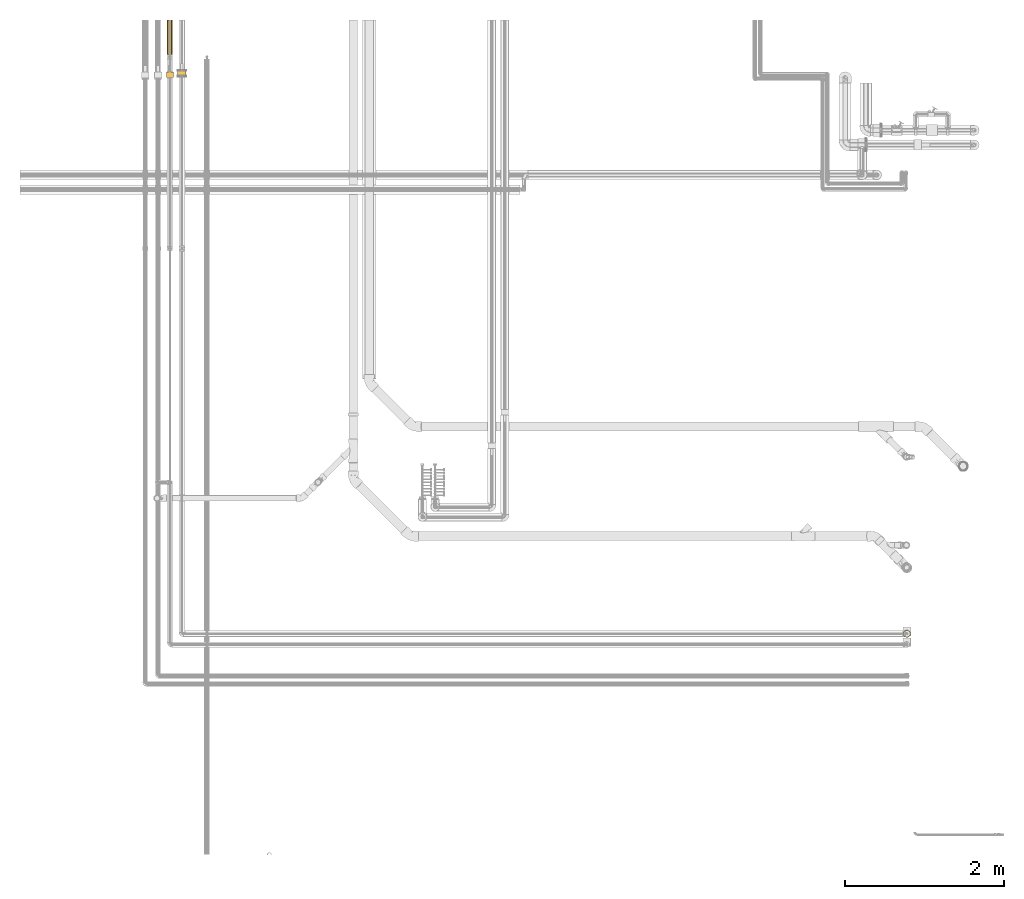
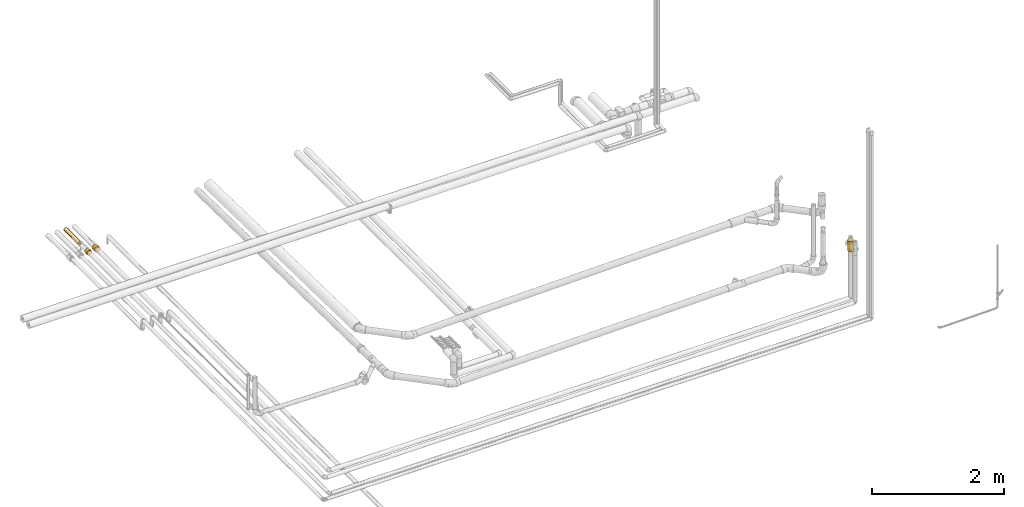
# One storey, part 20 of 83: 4 coverings.
"""IFC2X3 building model written with IfcOpenShell, lengths in millimetres."""

from ifc_helpers import new_model, entity, si_unit, converted_unit, derived_unit, direction, frame, origin_with_axes, place, context, subcontext, project, spatial, open_shell, faceted_brep, surface_model, source, transform, mapped, element, save


model = new_model("IFC2X3")

# Units and contexts
model_context = context("Model", 3, precision=0.01, world=frame((0.0, 4.29681676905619e-09, 0.0)), true_north=direction((4.01073788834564e-13, 1.0)))
plan_context = context("Plan", 3, precision=0.01, world=frame((0.0, 4.29681676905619e-09, 0.0)), true_north=direction((4.01073788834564e-13, 1.0)))
body_context = subcontext(model_context, "Body", "Model", "MODEL_VIEW")
ifc_project = project(units=[converted_unit("PLANEANGLEUNIT", "DEGREE", entity("IfcPositiveLengthMeasure", 0.0174532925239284), si_unit("PLANEANGLEUNIT", "RADIAN"), dimensions=[0, 0, 0, 0, 0, 0, 0]), si_unit("AREAUNIT", "SQUARE_METRE"), si_unit("LENGTHUNIT", "METRE", prefix="MILLI"), si_unit("MASSUNIT", "GRAM", prefix="KILO"), si_unit("POWERUNIT", "WATT"), si_unit("PRESSUREUNIT", "PASCAL"), si_unit("FORCEUNIT", "NEWTON", prefix="KILO"), si_unit("ELECTRICVOLTAGEUNIT", "VOLT"), si_unit("ELECTRICCURRENTUNIT", "AMPERE"), si_unit("THERMODYNAMICTEMPERATUREUNIT", "DEGREE_CELSIUS"), si_unit("TIMEUNIT", "SECOND"), si_unit("VOLUMEUNIT", "CUBIC_METRE"), derived_unit("LINEARVELOCITYUNIT", [(si_unit("LENGTHUNIT", "METRE"), 1), (si_unit("TIMEUNIT", "SECOND"), -1)]), derived_unit("VOLUMETRICFLOWRATEUNIT", [(si_unit("VOLUMEUNIT", "CUBIC_METRE"), 1), (si_unit("TIMEUNIT", "SECOND"), -1)]), derived_unit("THERMALTRANSMITTANCEUNIT", [(si_unit("POWERUNIT", "WATT"), 1), (si_unit("THERMODYNAMICTEMPERATUREUNIT", "KELVIN"), -1), (si_unit("AREAUNIT", "SQUARE_METRE"), -1)]), derived_unit("SOUNDPRESSUREUNIT", [(si_unit("PRESSUREUNIT", "PASCAL"), 1)])], contexts=[model_context, plan_context])

# Site, building, storey
site_placement = place(None, frame((0.0, -4.29681676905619e-09, 0.0), z_axis=(0.0, 0.0, 1.0), x_axis=(1.0, 0.0, 0.0)))
site = spatial("IfcSite", under=ifc_project, at=site_placement, Name="ENGM", CompositionType="ELEMENT")
building_placement = place(site_placement, frame((0.0, 4.29681676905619e-09, 0.0), z_axis=(0.0, 0.0, 1.0), x_axis=(1.0, 0.0, 0.0)))
building = spatial("IfcBuilding", under=site, at=building_placement, Name="TI", CompositionType="ELEMENT")
storey_placement = place(building_placement, frame((0.0, 0.0, 204000.0), z_axis=(0.0, 0.0, 1.0), x_axis=(1.0, 0.0, 0.0)))
storey = spatial("IfcBuildingStorey", under=building, at=storey_placement, Name="Nivå D", CompositionType="ELEMENT", Elevation=204000.0)

# Coverings
shared_shape_1 = source(origin_with_axes(), body_context, "Body", "SurfaceModel", [
    surface_model("IfcShellBasedSurfaceModel", [(33.5, 11.32333, -42.25925), (33.5, 21.875, -37.88861), (33.5, 30.93592, -30.93592), (33.5, 37.88861, -21.875), (33.5, 0.0, -43.75), (33.5, -21.875, -37.88861), (33.5, -11.32333, -42.25925), (33.5, 42.25925, 11.32333), (33.5, 37.88861, 21.875), (33.5, 30.93592, 30.93592), (33.5, 21.875, 37.88861), (33.5, 11.32333, 42.25925), (33.5, 0.0, 43.75), (33.5, -43.75, 0.0), (33.5, -37.88861, 21.875), (33.5, -42.25925, 11.32333), (-33.5, 0.0, 43.75), (-33.5, 11.32333, 42.25925), (-33.5, 21.875, 37.88861), (-33.5, 30.93592, 30.93592), (-33.5, 37.88861, 21.875), (-33.5, 42.25925, 11.32333), (-33.5, 30.93592, -30.93592), (-33.5, 21.875, -37.88861), (-33.5, 11.32333, -42.25925), (-33.5, -21.875, -37.88861), (-33.5, 0.0, -43.75), (-33.5, -11.32333, -42.25925), (-33.5, 42.25925, -11.32333), (-33.5, 43.75, 0.0), (33.5, 43.75, 0.0), (33.5, -11.32333, 42.25925), (-33.5, -11.32333, 42.25925), (-33.5, -21.875, 37.88861), (33.5, -21.875, 37.88861), (-33.5, -30.93592, 30.93592), (33.5, -30.93592, 30.93592), (-33.5, -37.88861, 21.875), (-33.5, -42.25925, 11.32333), (-33.5, -43.75, 0.0), (33.5, -42.25925, -11.32333), (-33.5, -42.25925, -11.32333), (-33.5, -37.88861, -21.875), (33.5, -37.88861, -21.875), (-33.5, -30.93592, -30.93592), (33.5, -30.93592, -30.93592), (-33.5, 37.88861, -21.875), (33.5, 42.25925, -11.32333)], [open_shell([[[0, 1, 2]], [[0, 2, 3]], [[4, 5, 6]], [[7, 8, 9]], [[10, 11, 12]], [[10, 12, 9]], [[13, 14, 15]], [[16, 17, 18]], [[19, 20, 21]], [[22, 23, 24]], [[25, 26, 27]], [[28, 21, 29]], [[29, 21, 7]], [[30, 29, 7]], [[20, 8, 7]], [[8, 20, 19]], [[21, 20, 7]], [[19, 9, 8]], [[10, 18, 17]], [[11, 17, 16]], [[9, 18, 10]], [[10, 17, 11]], [[16, 12, 11]], [[18, 9, 19]], [[31, 32, 33]], [[34, 33, 35]], [[16, 32, 12]], [[12, 32, 31]], [[33, 34, 31]], [[35, 36, 34]], [[14, 37, 38]], [[15, 38, 39]], [[36, 37, 14]], [[14, 38, 15]], [[39, 13, 15]], [[37, 36, 35]], [[40, 41, 42]], [[43, 42, 44]], [[39, 41, 13]], [[13, 41, 40]], [[42, 43, 40]], [[44, 45, 43]], [[5, 25, 27]], [[6, 27, 26]], [[45, 25, 5]], [[5, 27, 6]], [[26, 4, 6]], [[25, 45, 44]], [[0, 24, 23]], [[1, 23, 22]], [[26, 24, 4]], [[4, 24, 0]], [[23, 1, 0]], [[22, 2, 1]], [[3, 46, 28]], [[47, 28, 29]], [[2, 46, 3]], [[3, 28, 47]], [[29, 30, 47]], [[46, 2, 22]], [[47, 30, 13]], [[13, 7, 14]], [[7, 13, 30]], [[22, 28, 46]], [[0, 47, 40]], [[47, 0, 3]], [[13, 40, 47]], [[5, 4, 40]], [[45, 40, 43]], [[40, 45, 5]], [[4, 0, 40]], [[14, 7, 9]], [[14, 9, 12]], [[12, 36, 14]], [[12, 34, 36]], [[31, 34, 12]], [[16, 18, 19]], [[19, 21, 16]], [[16, 21, 37]], [[16, 35, 33]], [[33, 32, 16]], [[38, 41, 39]], [[16, 37, 35]], [[38, 37, 41]], [[37, 21, 28]], [[41, 37, 28]], [[22, 24, 28]], [[41, 28, 24]], [[41, 44, 42]], [[44, 41, 25]], [[26, 25, 41]], [[41, 24, 26]]])]),
])
covering_1_placement = place(storey_placement, frame((599881.50429, 698789.47914, 6052.17455), z_axis=(0.0, 0.0, 1.0), x_axis=(0.0, 1.0, 0.0)))
element("IfcCovering", 1, at=covering_1_placement, inside=storey, Name="BI15T - Cellegummi KV 15mm", PredefinedType="INSULATION", context=body_context, shape_type="MappedRepresentation", body=[
    mapped(shared_shape_1, transform((0.0, 0.0, 0.0), scale=1.0)),
])
shared_shape_2 = source(origin_with_axes(), body_context, "Body", "SurfaceModel", [
    surface_model("IfcShellBasedSurfaceModel", [(33.5, 26.375, -45.68284), (33.5, 0.0, -52.75), (33.5, 13.6527, -50.95259), (33.5, 45.68284, -26.375), (33.5, 37.29988, -37.29988), (33.5, -26.375, -45.68284), (33.5, 50.95259, -13.6527), (33.5, -45.68284, 26.375), (33.5, -45.68284, -26.375), (33.5, -13.6527, -50.95259), (33.5, -37.29988, -37.29988), (33.5, -52.75, 0.0), (33.5, -50.95259, -13.6527), (33.5, 50.95259, 13.6527), (33.5, 52.75, 0.0), (33.5, 45.68284, 26.375), (33.5, 37.29988, 37.29988), (33.5, 13.6527, 50.95259), (33.5, 26.375, 45.68284), (33.5, -13.6527, 50.95259), (33.5, 0.0, 52.75), (33.5, -50.95259, 13.6527), (33.5, -37.29988, 37.29988), (33.5, -26.375, 45.68284), (-33.5, 13.6527, 50.95259), (-33.5, -13.6527, 50.95259), (-33.5, 0.0, 52.75), (-33.5, 37.29988, 37.29988), (-33.5, 26.375, 45.68284), (-33.5, 45.68284, 26.375), (-33.5, 50.95259, 13.6527), (-33.5, -37.29988, 37.29988), (-33.5, -26.375, 45.68284), (-33.5, -45.68284, 26.375), (-33.5, -52.75, 0.0), (-33.5, -50.95259, 13.6527), (-33.5, -45.68284, -26.375), (-33.5, 50.95259, -13.6527), (-33.5, -26.375, -45.68284), (-33.5, 37.29988, -37.29988), (-33.5, 45.68284, -26.375), (-33.5, 26.375, -45.68284), (-33.5, 13.6527, -50.95259), (-33.5, 0.0, -52.75), (-33.5, -37.29988, -37.29988), (-33.5, -50.95259, -13.6527), (-33.5, -13.6527, -50.95259), (-33.5, 52.75, 0.0)], [open_shell([[[0, 1, 2]], [[3, 0, 4]], [[5, 0, 6]], [[6, 0, 3]], [[7, 8, 6]], [[1, 5, 9]], [[1, 0, 5]], [[5, 8, 10]], [[6, 8, 5]], [[8, 11, 12]], [[13, 6, 14]], [[13, 15, 16]], [[13, 16, 17]], [[13, 17, 7]], [[17, 16, 18]], [[19, 17, 20]], [[11, 7, 21]], [[8, 7, 11]], [[22, 19, 23]], [[19, 22, 7]], [[17, 19, 7]], [[7, 6, 13]], [[24, 25, 26]], [[27, 24, 28]], [[27, 29, 30]], [[27, 30, 24]], [[25, 24, 30]], [[25, 31, 32]], [[31, 25, 33]], [[33, 34, 35]], [[33, 25, 30]], [[33, 36, 34]], [[33, 30, 37]], [[38, 33, 37]], [[39, 37, 40]], [[37, 41, 38]], [[41, 37, 39]], [[42, 43, 41]], [[36, 38, 44]], [[45, 34, 36]], [[38, 43, 46]], [[36, 33, 38]], [[43, 38, 41]], [[47, 37, 30]], [[47, 30, 13]], [[14, 47, 13]], [[29, 15, 13]], [[16, 15, 29]], [[30, 29, 13]], [[29, 27, 16]], [[18, 28, 24]], [[17, 24, 26]], [[16, 28, 18]], [[18, 24, 17]], [[26, 20, 17]], [[28, 16, 27]], [[19, 25, 32]], [[23, 32, 31]], [[20, 26, 19]], [[19, 26, 25]], [[32, 23, 19]], [[31, 22, 23]], [[7, 33, 35]], [[21, 35, 34]], [[22, 33, 7]], [[7, 35, 21]], [[34, 11, 21]], [[33, 22, 31]], [[12, 45, 36]], [[8, 36, 44]], [[34, 45, 11]], [[11, 45, 12]], [[36, 8, 12]], [[44, 10, 8]], [[5, 38, 46]], [[9, 46, 43]], [[10, 38, 5]], [[5, 46, 9]], [[43, 1, 9]], [[38, 10, 44]], [[2, 42, 41]], [[0, 41, 39]], [[43, 42, 1]], [[1, 42, 2]], [[41, 0, 2]], [[39, 4, 0]], [[3, 40, 37]], [[6, 37, 47]], [[4, 40, 3]], [[3, 37, 6]], [[47, 14, 6]], [[40, 4, 39]]])]),
])
covering_2_placement = place(storey_placement, frame((600031.9743, 698806.22914, 6052.20000000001), z_axis=(0.0, 0.0, 1.0), x_axis=(0.0, 1.0, 0.0)))
element("IfcCovering", 2, at=covering_2_placement, inside=storey, Name="BI16T - Rørskål m/Al.folie - VV 40mm", PredefinedType="INSULATION", context=body_context, shape_type="MappedRepresentation", body=[
    mapped(shared_shape_2, transform((0.0, 0.0, 0.0), scale=1.0)),
])
shared_shape_3 = source(origin_with_axes(), body_context, "Body", "SurfaceModel", [
    surface_model("IfcShellBasedSurfaceModel", [(95.0, 12.03509, -44.91555), (95.0, 23.25, -40.27018), (95.0, 32.88046, -32.88046), (95.0, 44.91555, -12.03509), (95.0, -40.27018, -23.25), (95.0, -46.5, 0.0), (95.0, 40.27018, -23.25), (95.0, -12.03509, -44.91555), (95.0, -32.88046, -32.88046), (95.0, -23.25, -40.27018), (95.0, 0.0, -46.5), (95.0, -44.91555, -12.03509), (95.0, 46.5, 0.0), (95.0, 44.91555, 12.03509), (95.0, 40.27018, 23.25), (95.0, 32.88046, 32.88046), (95.0, 23.25, 40.27018), (95.0, 12.03509, 44.91555), (95.0, 0.0, 46.5), (95.0, -12.03509, 44.91555), (95.0, -40.27018, 23.25), (95.0, -44.91555, 12.03509), (95.0, -32.88046, 32.88046), (95.0, -23.25, 40.27018), (-95.0, 0.0, 46.5), (-95.0, 12.03509, 44.91555), (-95.0, 23.25, 40.27018), (-95.0, 44.91555, 12.03509), (-95.0, 32.88046, 32.88046), (-95.0, 40.27018, 23.25), (-95.0, -46.5, 0.0), (-95.0, -44.91555, -12.03509), (-95.0, -12.03509, 44.91555), (-95.0, -32.88046, 32.88046), (-95.0, -23.25, 40.27018), (-95.0, -40.27018, 23.25), (-95.0, -44.91555, 12.03509), (-95.0, 12.03509, -44.91555), (-95.0, 44.91555, -12.03509), (-95.0, 32.88046, -32.88046), (-95.0, 40.27018, -23.25), (-95.0, 23.25, -40.27018), (-95.0, -40.27018, -23.25), (-95.0, -12.03509, -44.91555), (-95.0, -32.88046, -32.88046), (-95.0, 0.0, -46.5), (-95.0, -23.25, -40.27018), (-95.0, 46.5, 0.0)], [open_shell([[[0, 1, 2]], [[0, 2, 3]], [[4, 0, 5]], [[3, 2, 6]], [[0, 3, 5]], [[7, 8, 9]], [[8, 7, 10]], [[10, 4, 8]], [[10, 0, 4]], [[4, 5, 11]], [[3, 12, 13]], [[13, 14, 15]], [[13, 15, 16]], [[16, 17, 18]], [[16, 18, 13]], [[13, 18, 19]], [[5, 20, 21]], [[20, 5, 22]], [[22, 19, 23]], [[19, 22, 5]], [[5, 13, 19]], [[13, 5, 3]], [[24, 25, 26]], [[24, 26, 27]], [[28, 29, 27]], [[28, 27, 26]], [[30, 24, 31]], [[32, 33, 34]], [[33, 32, 30]], [[35, 30, 36]], [[30, 35, 33]], [[32, 24, 30]], [[24, 27, 37]], [[27, 38, 37]], [[39, 38, 40]], [[39, 41, 37]], [[39, 37, 38]], [[24, 37, 31]], [[42, 43, 44]], [[45, 42, 31]], [[44, 43, 46]], [[43, 42, 45]], [[31, 37, 45]], [[38, 27, 47]], [[14, 29, 28]], [[12, 27, 13]], [[27, 12, 47]], [[13, 27, 29]], [[29, 14, 13]], [[28, 15, 14]], [[16, 26, 25]], [[17, 25, 24]], [[15, 26, 16]], [[16, 25, 17]], [[24, 18, 17]], [[26, 15, 28]], [[19, 32, 34]], [[23, 34, 33]], [[24, 32, 18]], [[18, 32, 19]], [[34, 23, 19]], [[33, 22, 23]], [[20, 35, 36]], [[21, 36, 30]], [[22, 35, 20]], [[20, 36, 21]], [[30, 5, 21]], [[35, 22, 33]], [[11, 31, 42]], [[4, 42, 44]], [[30, 31, 5]], [[5, 31, 11]], [[42, 4, 11]], [[44, 8, 4]], [[9, 46, 43]], [[7, 43, 45]], [[8, 46, 9]], [[9, 43, 7]], [[45, 10, 7]], [[46, 8, 44]], [[0, 37, 41]], [[1, 41, 39]], [[45, 37, 10]], [[10, 37, 0]], [[41, 1, 0]], [[39, 2, 1]], [[6, 40, 38]], [[3, 38, 47]], [[2, 40, 6]], [[6, 38, 3]], [[47, 12, 3]], [[40, 2, 39]]])]),
])
covering_3_placement = place(storey_placement, frame((609131.9743, 691772.72914, 7191.33984), z_axis=(0.0, 1.0, 0.0), x_axis=(0.0, 0.0, -1.0)))
element("IfcCovering", 3, at=covering_3_placement, inside=storey, Name="BI16T - Rørskål m/Al.folie - VV 40mm", PredefinedType="INSULATION", context=body_context, shape_type="MappedRepresentation", body=[
    mapped(shared_shape_3, transform((0.0, 0.0, 0.0), scale=1.0)),
])
covering_4_placement = place(storey_placement, frame((599881.50429, 700088.1488, 6052.17455), z_axis=(0.0, 0.0, 1.0), x_axis=(0.0, -1.0, 0.0)))
element("IfcCovering", 4, at=covering_4_placement, inside=storey, Name="BI15T - Cellegummi KV 15mm", PredefinedType="INSULATION", context=body_context, shape_type="Brep", body=[
    faceted_brep([(612.648800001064, 13.7873085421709, -2.43107448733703), (612.648800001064, 14.0, 0.0), (1046.6, 14.0, 0.0), (1046.6, 13.7873085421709, -2.43107448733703), (612.648800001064, 13.1556966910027, -4.78828200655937), (1046.6, 13.1556966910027, -4.78828200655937), (612.648800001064, 12.1243556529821, -7.00000000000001), (1046.6, 12.1243556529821, -7.00000000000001), (612.648800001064, 10.7246222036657, -8.99902653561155), (1046.6, 10.7246222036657, -8.99902653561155), (612.648800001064, 8.99902653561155, -10.7246222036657), (1046.6, 8.99902653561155, -10.7246222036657), (612.648800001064, 7.0, -12.1243556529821), (1046.6, 7.0, -12.1243556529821), (612.648800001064, 4.78828200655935, -13.1556966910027), (1046.6, 4.78828200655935, -13.1556966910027), (612.648800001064, 2.43107448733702, -13.7873085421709), (1046.6, 2.43107448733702, -13.7873085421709), (612.648800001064, -2.57175827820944e-15, -14.0), (1046.6, -2.57175827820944e-15, -14.0), (612.648800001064, -2.43107448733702, -13.7873085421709), (1046.6, -2.43107448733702, -13.7873085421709), (612.648800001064, -4.78828200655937, -13.1556966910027), (1046.6, -4.78828200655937, -13.1556966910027), (612.648800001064, -7.00000000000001, -12.1243556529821), (1046.6, -7.00000000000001, -12.1243556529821), (612.648800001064, -8.99902653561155, -10.7246222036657), (1046.6, -8.99902653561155, -10.7246222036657), (612.648800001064, -10.7246222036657, -8.99902653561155), (1046.6, -10.7246222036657, -8.99902653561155), (612.648800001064, -12.1243556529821, -7.0), (1046.6, -12.1243556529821, -7.0), (612.648800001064, -13.1556966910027, -4.78828200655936), (1046.6, -13.1556966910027, -4.78828200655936), (612.648800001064, -13.7873085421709, -2.43107448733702), (1046.6, -13.7873085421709, -2.43107448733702), (612.648800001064, -14.0, 1.71450551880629e-15), (1046.6, -14.0, 1.71450551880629e-15), (612.648800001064, -13.7873085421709, 2.43107448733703), (1046.6, -13.7873085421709, 2.43107448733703), (612.648800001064, -13.1556966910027, 4.78828200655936), (1046.6, -13.1556966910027, 4.78828200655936), (612.648800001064, -12.1243556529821, 7.0), (1046.6, -12.1243556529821, 7.0), (612.648800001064, -10.7246222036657, 8.99902653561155), (1046.6, -10.7246222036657, 8.99902653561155), (612.648800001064, -8.99902653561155, 10.7246222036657), (1046.6, -8.99902653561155, 10.7246222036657), (612.648800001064, -7.0, 12.1243556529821), (1046.6, -7.0, 12.1243556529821), (612.648800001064, -4.78828200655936, 13.1556966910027), (1046.6, -4.78828200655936, 13.1556966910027), (612.648800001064, -2.43107448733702, 13.7873085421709), (1046.6, -2.43107448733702, 13.7873085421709), (612.648800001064, 8.57252759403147e-16, 14.0), (1046.6, 8.57252759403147e-16, 14.0), (612.648800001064, 2.43107448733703, 13.7873085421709), (1046.6, 2.43107448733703, 13.7873085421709), (612.648800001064, 4.78828200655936, 13.1556966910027), (1046.6, 4.78828200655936, 13.1556966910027), (612.648800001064, 7.0, 12.1243556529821), (1046.6, 7.0, 12.1243556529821), (612.648800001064, 8.99902653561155, 10.7246222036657), (1046.6, 8.99902653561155, 10.7246222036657), (612.648800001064, 10.7246222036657, 8.99902653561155), (1046.6, 10.7246222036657, 8.99902653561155), (612.648800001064, 12.1243556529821, 7.0), (1046.6, 12.1243556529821, 7.0), (612.648800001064, 13.1556966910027, 4.78828200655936), (1046.6, 13.1556966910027, 4.78828200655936), (612.648800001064, 13.7873085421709, 2.43107448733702), (1046.6, 13.7873085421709, 2.43107448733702), (612.648800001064, 35.0, 0.0), (612.648800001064, 34.4682713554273, -6.07768621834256), (1046.6, 34.4682713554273, -6.07768621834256), (1046.6, 35.0, 0.0), (612.648800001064, 34.4682713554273, 6.07768621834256), (1046.6, 34.4682713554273, 6.07768621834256), (612.648800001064, 32.8892417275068, 11.9707050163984), (1046.6, 32.8892417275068, 11.9707050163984), (612.648800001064, 30.3108891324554, 17.5), (1046.6, 30.3108891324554, 17.5), (612.648800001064, 26.8115555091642, 22.4975663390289), (1046.6, 26.8115555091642, 22.4975663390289), (612.648800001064, 22.4975663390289, 26.8115555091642), (1046.6, 22.4975663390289, 26.8115555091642), (612.648800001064, 17.5, 30.3108891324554), (1046.6, 17.5, 30.3108891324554), (612.648800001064, 11.9707050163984, 32.8892417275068), (1046.6, 11.9707050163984, 32.8892417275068), (612.648800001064, 6.07768621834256, 34.4682713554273), (1046.6, 6.07768621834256, 34.4682713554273), (612.648800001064, 2.14313189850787e-15, 35.0), (1046.6, 2.14313189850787e-15, 35.0), (612.648800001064, -6.07768621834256, 34.4682713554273), (1046.6, -6.07768621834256, 34.4682713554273), (612.648800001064, -11.9707050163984, 32.8892417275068), (1046.6, -11.9707050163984, 32.8892417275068), (612.648800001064, -17.5, 30.3108891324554), (1046.6, -17.5, 30.3108891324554), (612.648800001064, -22.4975663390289, 26.8115555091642), (1046.6, -22.4975663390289, 26.8115555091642), (612.648800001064, -26.8115555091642, 22.4975663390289), (1046.6, -26.8115555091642, 22.4975663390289), (612.648800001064, -30.3108891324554, 17.5), (1046.6, -30.3108891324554, 17.5), (612.648800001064, -32.8892417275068, 11.9707050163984), (1046.6, -32.8892417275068, 11.9707050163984), (612.648800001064, -34.4682713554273, 6.07768621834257), (1046.6, -34.4682713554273, 6.07768621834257), (612.648800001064, -35.0, 4.28626379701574e-15), (1046.6, -35.0, 4.28626379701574e-15), (612.648800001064, -34.4682713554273, -6.07768621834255), (1046.6, -34.4682713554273, -6.07768621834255), (612.648800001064, -32.8892417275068, -11.9707050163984), (1046.6, -32.8892417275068, -11.9707050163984), (612.648800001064, -30.3108891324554, -17.5), (1046.6, -30.3108891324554, -17.5), (612.648800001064, -26.8115555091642, -22.4975663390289), (1046.6, -26.8115555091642, -22.4975663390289), (612.648800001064, -22.4975663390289, -26.8115555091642), (1046.6, -22.4975663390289, -26.8115555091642), (612.648800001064, -17.5, -30.3108891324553), (1046.6, -17.5, -30.3108891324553), (612.648800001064, -11.9707050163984, -32.8892417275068), (1046.6, -11.9707050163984, -32.8892417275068), (612.648800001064, -6.07768621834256, -34.4682713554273), (1046.6, -6.07768621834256, -34.4682713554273), (612.648800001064, -6.4293956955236e-15, -35.0), (1046.6, -6.4293956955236e-15, -35.0), (612.648800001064, 6.07768621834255, -34.4682713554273), (1046.6, 6.07768621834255, -34.4682713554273), (612.648800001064, 11.9707050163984, -32.8892417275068), (1046.6, 11.9707050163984, -32.8892417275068), (612.648800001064, 17.5, -30.3108891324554), (1046.6, 17.5, -30.3108891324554), (612.648800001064, 22.4975663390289, -26.8115555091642), (1046.6, 22.4975663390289, -26.8115555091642), (612.648800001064, 26.8115555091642, -22.4975663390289), (1046.6, 26.8115555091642, -22.4975663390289), (612.648800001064, 30.3108891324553, -17.5), (1046.6, 30.3108891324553, -17.5), (612.648800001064, 32.8892417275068, -11.9707050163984), (1046.6, 32.8892417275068, -11.9707050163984)], [[[0, 1, 2, 3]], [[4, 0, 3, 5]], [[6, 4, 5, 7]], [[8, 6, 7, 9]], [[10, 8, 9, 11]], [[12, 10, 11, 13]], [[14, 12, 13, 15]], [[16, 14, 15, 17]], [[18, 16, 17, 19]], [[20, 18, 19, 21]], [[22, 20, 21, 23]], [[24, 22, 23, 25]], [[26, 24, 25, 27]], [[28, 26, 27, 29]], [[30, 28, 29, 31]], [[32, 30, 31, 33]], [[34, 32, 33, 35]], [[36, 34, 35, 37]], [[38, 36, 37, 39]], [[40, 38, 39, 41]], [[42, 40, 41, 43]], [[44, 42, 43, 45]], [[46, 44, 45, 47]], [[48, 46, 47, 49]], [[50, 48, 49, 51]], [[52, 50, 51, 53]], [[54, 52, 53, 55]], [[56, 54, 55, 57]], [[58, 56, 57, 59]], [[60, 58, 59, 61]], [[62, 60, 61, 63]], [[64, 62, 63, 65]], [[66, 64, 65, 67]], [[68, 66, 67, 69]], [[70, 68, 69, 71]], [[1, 70, 71, 2]], [[72, 73, 74, 75]], [[76, 72, 75, 77]], [[78, 76, 77, 79]], [[80, 78, 79, 81]], [[82, 80, 81, 83]], [[84, 82, 83, 85]], [[86, 84, 85, 87]], [[88, 86, 87, 89]], [[90, 88, 89, 91]], [[92, 90, 91, 93]], [[94, 92, 93, 95]], [[96, 94, 95, 97]], [[98, 96, 97, 99]], [[100, 98, 99, 101]], [[102, 100, 101, 103]], [[104, 102, 103, 105]], [[106, 104, 105, 107]], [[108, 106, 107, 109]], [[110, 108, 109, 111]], [[112, 110, 111, 113]], [[114, 112, 113, 115]], [[116, 114, 115, 117]], [[118, 116, 117, 119]], [[120, 118, 119, 121]], [[122, 120, 121, 123]], [[124, 122, 123, 125]], [[126, 124, 125, 127]], [[128, 126, 127, 129]], [[130, 128, 129, 131]], [[132, 130, 131, 133]], [[134, 132, 133, 135]], [[136, 134, 135, 137]], [[138, 136, 137, 139]], [[140, 138, 139, 141]], [[142, 140, 141, 143]], [[73, 142, 143, 74]], [[75, 74, 143, 141, 139, 137, 135, 133, 131, 129, 127, 125, 123, 121, 119, 117, 115, 113, 111, 109, 107, 105, 103, 101, 99, 97, 95, 93, 91, 89, 87, 85, 83, 81, 79, 77], [2, 71, 69, 67, 65, 63, 61, 59, 57, 55, 53, 51, 49, 47, 45, 43, 41, 39, 37, 35, 33, 31, 29, 27, 25, 23, 21, 19, 17, 15, 13, 11, 9, 7, 5, 3]], [[76, 78, 80, 82, 84, 86, 88, 90, 92, 94, 96, 98, 100, 102, 104, 106, 108, 110, 112, 114, 116, 118, 120, 122, 124, 126, 128, 130, 132, 134, 136, 138, 140, 142, 73, 72], [4, 6, 8, 10, 12, 14, 16, 18, 20, 22, 24, 26, 28, 30, 32, 34, 36, 38, 40, 42, 44, 46, 48, 50, 52, 54, 56, 58, 60, 62, 64, 66, 68, 70, 1, 0]]], orient=[[False], [False], [False], [False], [False], [False], [False], [False], [False], [False], [False], [False], [False], [False], [False], [False], [False], [False], [False], [False], [False], [False], [False], [False], [False], [False], [False], [False], [False], [False], [False], [False], [False], [False], [False], [False], [False], [False], [False], [False], [False], [False], [False], [False], [False], [False], [False], [False], [False], [False], [False], [False], [False], [False], [False], [False], [False], [False], [False], [False], [False], [False], [False], [False], [False], [False], [False], [False], [False], [False], [False], [False], [False, False], [False, False]]),
])

save(model, "model.ifc")
